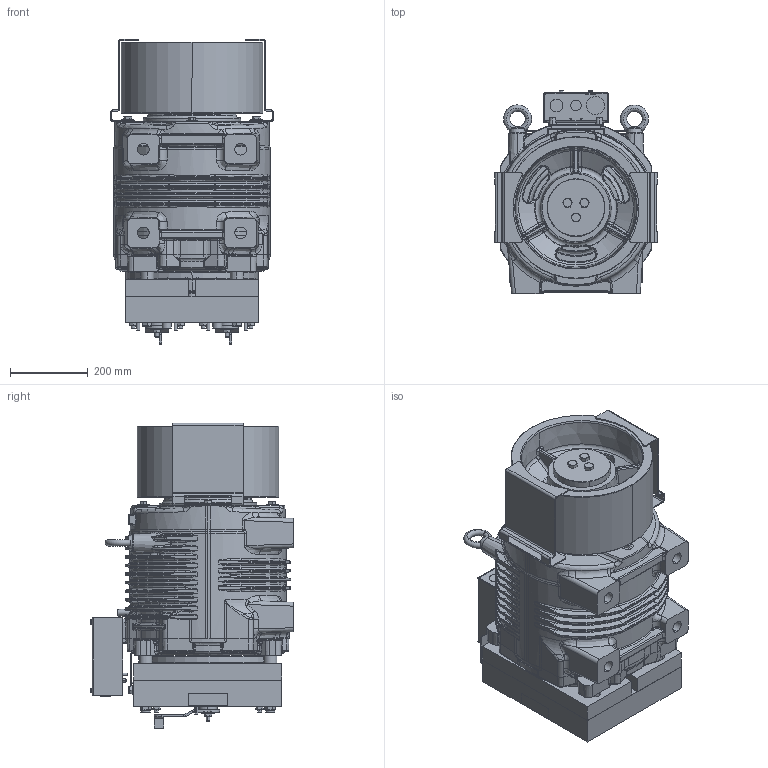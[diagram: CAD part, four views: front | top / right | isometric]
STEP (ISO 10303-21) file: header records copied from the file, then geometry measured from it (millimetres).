
FILE_DESCRIPTION((''),'2;1');
FILE_NAME('00363634_ASM','2020-06-16T',('furlanis'),('Sicor spa'),'CREO PARAMETRIC BY PTC INC, 2017170','CREO PARAMETRIC BY PTC INC, 2017170','');
FILE_SCHEMA(('CONFIG_CONTROL_DESIGN'));
Products named in the file (4): SG62_; _360_182; _360; 00363634_ASM
Assembly tree (4 placements, depth 2):
  00363634_ASM
    SG62_
    _360_182
    _360  x2
Bounding box: 417 x 521.9 x 783.64 mm (x, y, z)
Volume: 9137450 mm3; surface area: 4664297 mm2
Topology: 3 solids, 181 shells, 4033 faces, 11395 edges, 7299 vertices
Faces by surface type: bspline 1120, plane 991, cylinder 887, torus 578, cone 437, sphere 20
Entity records: 223286 total; most frequent: CARTESIAN_POINT 135413, ORIENTED_EDGE 19554, DIRECTION 14743, EDGE_CURVE 11209, VERTEX_POINT 7203, AXIS2_PLACEMENT_3D 5876, B_SPLINE_CURVE_WITH_KNOTS 5197, EDGE_LOOP 3980
